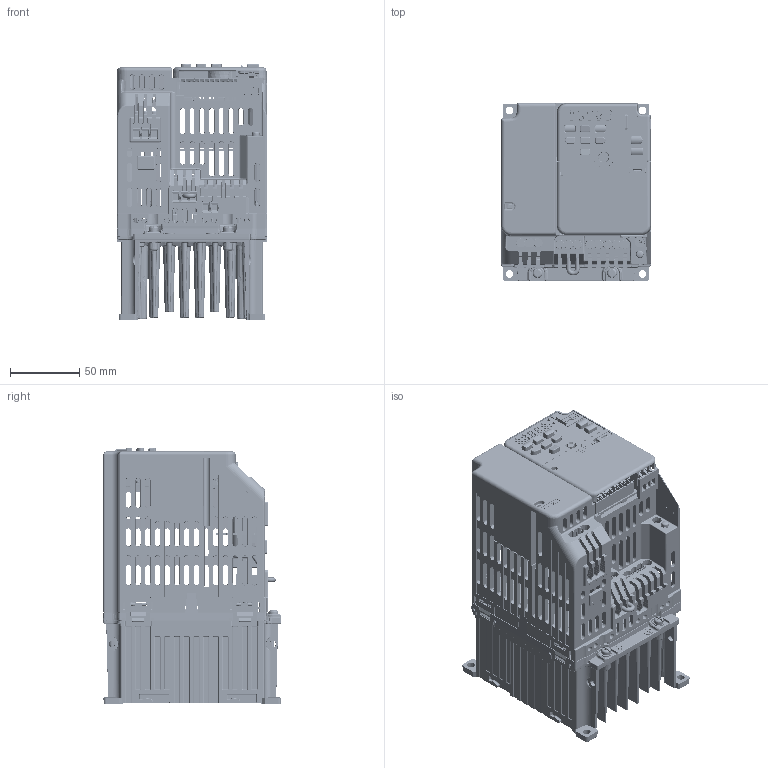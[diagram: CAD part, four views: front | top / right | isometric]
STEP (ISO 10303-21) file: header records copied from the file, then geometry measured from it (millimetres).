
FILE_DESCRIPTION((''),'2;1');
FILE_NAME('GA500_EMC_FRAME_V2-E_ASM','2019-03-08T',('anm'),('YASKAWA ELECTRIC CORCORATION'),'PRO/ENGINEER BY PARAMETRIC TECHNOLOGY CORPORATION, 2015440','PRO/ENGINEER BY PARAMETRIC TECHNOLOGY CORPORATION, 2015440','');
FILE_SCHEMA(('CONFIG_CONTROL_DESIGN'));
Products named in the file (141): LAY_KIPR-GA50_Q_4004_1_1_1_1_1; 400-104-194_1_1_1_1_1; PRT0001; PRT0002; PRT0003; PRT0004; KTP761963_6PCB_ASM_1_ASM_1_ASM__ASM; PRT0005; PRT0006; KTP761963_5PCB_ASM_1_ASM_1_ASM__ASM; 400-107-664_ASM_1_ASM_1_ASM_1_A_ASM; PRT0010; MKDS5NHV_3-ZB-6P35_1_1_1_1_1; ASM0001_ASM; 400-104-405_1_1_1_1_1; PRT0011; 400-104-405_ASM_1_ASM_1_ASM_1_A_ASM; PRT0012; PRT0013; PRT0014; PRT0015; MANIFOLD_SOLID_BREP_716412_1_1_; MANIFOLD_SOLID_BREP_716563_1_1_; MANIFOLD_SOLID_BREP_716714_1_1_; MANIFOLD_SOLID_BREP_716865_1_1_; MANIFOLD_SOLID_BREP_717018_1_1_; MANIFOLD_SOLID_BREP_717169_1_1_; MANIFOLD_SOLID_BREP_717320_1_1_; MANIFOLD_SOLID_BREP_717471_1_1_; MANIFOLD_SOLID_BREP_717622_1_1_; MANIFOLD_SOLID_BREP_717773_1_1_; MANIFOLD_SOLID_BREP_717924_1_1_; ASM0003_ASM; MANIFOLD_SOLID_BREP_728736_1_1_; MANIFOLD_SOLID_BREP_728920_1_1_; MANIFOLD_SOLID_BREP_729104_1_1_; MANIFOLD_SOLID_BREP_729288_1_1_; MANIFOLD_SOLID_BREP_729472_1_1_; MANIFOLD_SOLID_BREP_729623_1_1_; MANIFOLD_SOLID_BREP_729774_1_1_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
Assembly tree (142 placements, depth 10):
  GA500_EMC_FRAME_V2-E_ASM
    Q2V_FRAME_V2-E_ASM_1_ASM
      Q2V_FRAME_V2-E_ASM_1_ASM_1_ASM
        00_CIPR-GA50Z4004EBAA_AS-583007_ASM
          00_CIPR-GA50Z4004EBAA_AS-582974_ASM
            00-CIPR-GA50Z4004XXXX_ASM_2_ASM_ASM
              LAY_KIPR-GA50_Q_4004_1_1_1_1_1
              400-104-194_1_1_1_1_1
              PRT0001  x2
              PRT0002
              KTP761963_6PCB_ASM_1_ASM_1_ASM__ASM
                PRT0003
                PRT0004
              KTP761963_5PCB_ASM_1_ASM_1_ASM__ASM
                PRT0005
                PRT0006
              400-107-664_ASM_1_ASM_1_ASM_1_A_ASM
              ASM0001_ASM
                PRT0010
                MKDS5NHV_3-ZB-6P35_1_1_1_1_1
              400-104-405_ASM_1_ASM_1_ASM_1_A_ASM
                400-104-405_1_1_1_1_1
                PRT0011
              PRT0012
              ASM0002_ASM
                PRT0013
                PRT0014
                PRT0015
                ASM0003_ASM
                  MANIFOLD_SOLID_BREP_716412_1_1_
                  MANIFOLD_SOLID_BREP_716563_1_1_
                  MANIFOLD_SOLID_BREP_716714_1_1_
                  MANIFOLD_SOLID_BREP_716865_1_1_
                  MANIFOLD_SOLID_BREP_717018_1_1_
                  MANIFOLD_SOLID_BREP_717169_1_1_
                  MANIFOLD_SOLID_BREP_717320_1_1_
                  MANIFOLD_SOLID_BREP_717471_1_1_
                  MANIFOLD_SOLID_BREP_717622_1_1_
                  MANIFOLD_SOLID_BREP_717773_1_1_
                  MANIFOLD_SOLID_BREP_717924_1_1_
                ASM0004_ASM
                  MANIFOLD_SOLID_BREP_728736_1_1_
                  MANIFOLD_SOLID_BREP_728920_1_1_
                  MANIFOLD_SOLID_BREP_729104_1_1_
                  MANIFOLD_SOLID_BREP_729288_1_1_
                  MANIFOLD_SOLID_BREP_729472_1_1_
                  MANIFOLD_SOLID_BREP_729623_1_1_
                  MANIFOLD_SOLID_BREP_729774_1_1_
                  MANIFOLD_SOLID_BREP_729925_1_1_
                  MANIFOLD_SOLID_BREP_730076_1_1_
                  MANIFOLD_SOLID_BREP_730227_1_1_
                  MANIFOLD_SOLID_BREP_730378_1_1_
                  MANIFOLD_SOLID_BREP_730529_1_1_
                  MANIFOLD_SOLID_BREP_730680_1_1_
                  MANIFOLD_SOLID_BREP_730831_1_1_
                  MANIFOLD_SOLID_BREP_730982_1_1_
                  MANIFOLD_SOLID_BREP_731133_1_1_
                  MANIFOLD_SOLID_BREP_731284_1_1_
                  MANIFOLD_SOLID_BREP_731435_1_1_
                  MANIFOLD_SOLID_BREP_731586_1_1_
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Bounding box: 108.58 x 128.29 x 185.25 mm (x, y, z)
Volume: 538580.7 mm3; surface area: 415700.5 mm2
Topology: 117 solids, 121 shells, 15238 faces, 42106 edges, 27093 vertices
Faces by surface type: plane 9197, cylinder 3274, cone 1023, bspline 912, torus 531, sphere 301
Entity records: 535655 total; most frequent: CARTESIAN_POINT 152203, ORIENTED_EDGE 83323, DIRECTION 73876, EDGE_CURVE 41672, VECTOR 28588, LINE 28588, VERTEX_POINT 27013, AXIS2_PLACEMENT_3D 22644
